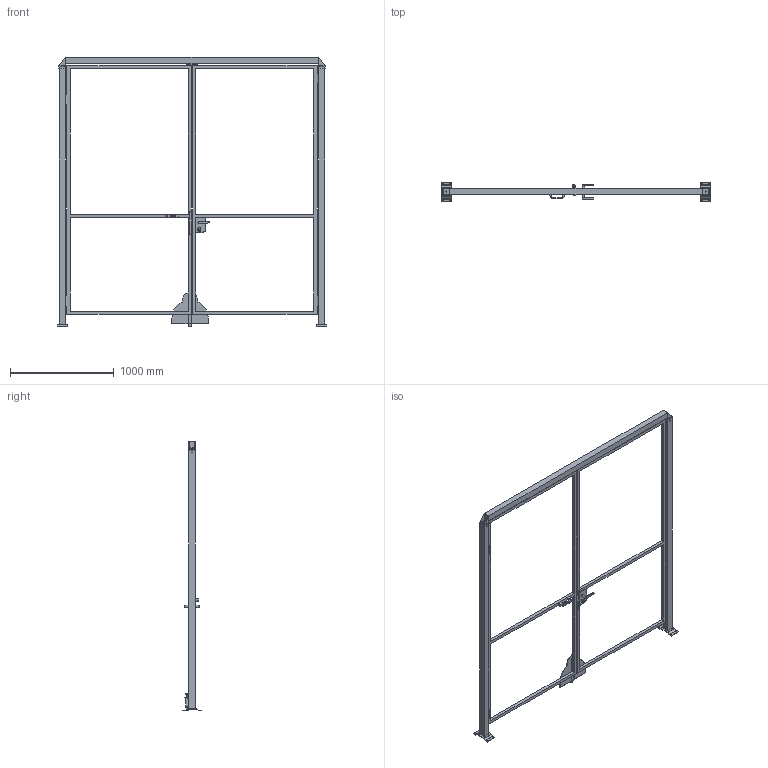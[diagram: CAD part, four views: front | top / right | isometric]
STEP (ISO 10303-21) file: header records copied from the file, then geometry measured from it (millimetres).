
FILE_DESCRIPTION(/* description */ (''),/* implementation_level */ '2;1');
FILE_NAME(/* name */ 'C:\SafeGuarding\ELABORATI\VZOR§GAMMA_2025-02-03-12-17-31.stp',/* time_stamp */ '2025-02-03T12:17:34+01:00',/* author */ ('admin'),/* organization */ (''),/* preprocessor_version */ 'ST-DEVELOPER v18.1',/* originating_system */ 'AutoCAD Mechanical',/* authorisation */ '');
FILE_SCHEMA (('AUTOMOTIVE_DESIGN { 1 0 10303 214 3 1 1 }'));
Length unit declared in the file: millimetre
Products named in the file (5): Product; *U4; DATI_PORTA; P_VFMA.ME60SDU.2520; VFPA.REPE30.12002400
Assembly tree (6 placements, depth 2):
  Product
    VFPA.REPE30.12002400  x2
    P_VFMA.ME60SDU.2520  x2
    *U4
    DATI_PORTA
Bounding box: 2605 x 192 x 2600.5 mm (x, y, z)
Volume: 43408696.5 mm3; surface area: 4416286.9 mm2
Topology: 30 solids, 41 shells, 397 faces, 1323 edges, 1278 vertices
Faces by surface type: plane 321, cylinder 71, bspline 4, cone 1
Full cylindrical faces by diameter (mm): 11 x25, 14 x2, 24 x1, 25 x2, 25.398 x2
Entity records: 13058 total; most frequent: CARTESIAN_POINT 3786, DIRECTION 1815, ORIENTED_EDGE 1640, EDGE_CURVE 869, LINE 753, VECTOR 753, VERTEX_POINT 616, AXIS2_PLACEMENT_3D 531
